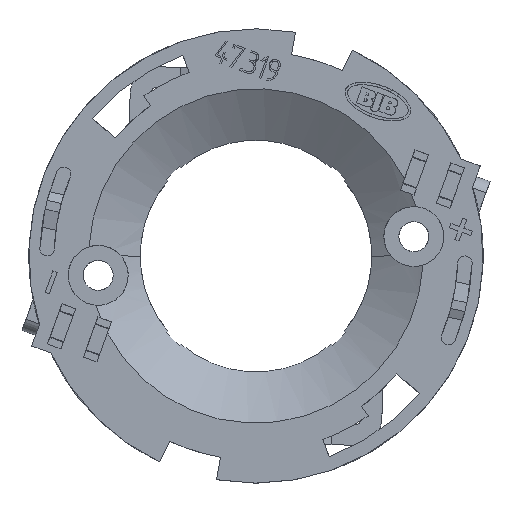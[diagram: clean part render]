
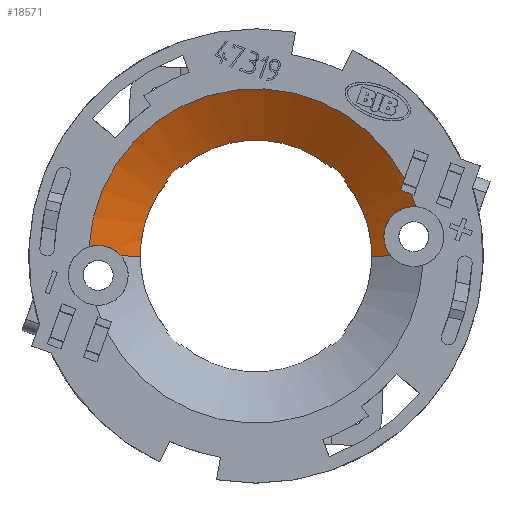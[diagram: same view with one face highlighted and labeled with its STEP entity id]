
A CAD part, top view. The second image highlights one B-rep face of the part: STEP entity #18571.
In plain terms, the highlighted free-form (B-spline) face has degree [7, 1] with [8, 2] control points.
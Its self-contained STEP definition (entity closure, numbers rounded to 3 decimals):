
#7226=CARTESIAN_POINT(' ',(17.583,5.426,5.35));
#7227=VERTEX_POINT(' ',#7226);
#7566=CARTESIAN_POINT(' ',(-18.373,1.011,5.35));
#7567=VERTEX_POINT(' ',#7566);
#7581=CARTESIAN_POINT(' ',(0.,0.,5.35));
#7586=DIRECTION(' ',(0.,0.,1.));
#7591=DIRECTION(' ',(0.888,0.461,0.));
#7596=AXIS2_PLACEMENT_3D(' ',#7581,#7586,#7591);
#7601=CIRCLE('',#7596,18.401);
#7606=CARTESIAN_POINT(' ',(16.333,8.474,5.35));
#7607=VERTEX_POINT(' ',#7606);
#7611=EDGE_CURVE(' ',#7607,#7567,#7601,.T.);
#7746=CARTESIAN_POINT(' ',(17.092,6.815,5.35));
#7747=VERTEX_POINT(' ',#7746);
#7761=CARTESIAN_POINT(' ',(-0.025,-0.01,5.313));
#7766=DIRECTION(' ',(-0.002,-0.001,1.));
#7771=DIRECTION(' ',(0.956,0.295,0.002));
#7776=AXIS2_PLACEMENT_3D(' ',#7761,#7766,#7771);
#7781=CIRCLE('',#7776,18.427);
#7786=EDGE_CURVE(' ',#7227,#7747,#7781,.T.);
#15866=CARTESIAN_POINT(' ',(17.583,5.426,5.35));
#15871=CARTESIAN_POINT(' ',(16.564,5.492,4.742));
#15876=CARTESIAN_POINT(' ',(15.576,5.089,4.061));
#15881=CARTESIAN_POINT(' ',(14.578,3.956,3.249));
#15886=CARTESIAN_POINT(' ',(14.331,3.524,3.025));
#15891=CARTESIAN_POINT(' ',(14.087,2.645,2.755));
#15896=CARTESIAN_POINT(' ',(14.039,2.19,2.675));
#15901=CARTESIAN_POINT(' ',(14.176,1.039,2.672));
#15906=CARTESIAN_POINT(' ',(14.478,0.44,2.851));
#15911=CARTESIAN_POINT(' ',(14.851,0.,3.089));
#15916=B_SPLINE_CURVE_WITH_KNOTS('',3,(#15866,#15871,#15876,#15881,#15886,#15891,#15896,#15901,#15906,#15911),.UNSPECIFIED.,.F.,.U.,(4,2,2,2,4),(0.,0.43,0.629,0.773,1.),.UNSPECIFIED.);
#15921=CARTESIAN_POINT(' ',(14.851,0.,3.089));
#15922=VERTEX_POINT(' ',#15921);
#15926=EDGE_CURVE(' ',#7227,#15922,#15916,.T.);
#16311=CARTESIAN_POINT(' ',(-14.851,0.,3.089));
#16316=DIRECTION(' ',(0.843,0.,-0.537));
#16321=VECTOR(' ',#16316,1.);
#16326=LINE('',#16311,#16321);
#16331=CARTESIAN_POINT(' ',(-14.851,0.,3.089));
#16332=VERTEX_POINT(' ',#16331);
#16336=CARTESIAN_POINT(' ',(-12.75,0.,1.75));
#16337=VERTEX_POINT(' ',#16336);
#16341=EDGE_CURVE(' ',#16332,#16337,#16326,.T.);
#16541=CARTESIAN_POINT(' ',(12.75,0.,1.75));
#16546=DIRECTION(' ',(0.843,0.,0.537));
#16551=VECTOR(' ',#16546,1.);
#16556=LINE('',#16541,#16551);
#16561=CARTESIAN_POINT(' ',(12.75,0.,1.75));
#16562=VERTEX_POINT(' ',#16561);
#16566=EDGE_CURVE(' ',#16562,#15922,#16556,.T.);
#17941=CARTESIAN_POINT(' ',(-14.851,0.,3.089));
#17946=CARTESIAN_POINT(' ',(-15.526,0.797,3.519));
#17951=CARTESIAN_POINT(' ',(-16.493,1.181,4.161));
#17956=CARTESIAN_POINT(' ',(-17.738,1.162,4.952));
#17961=CARTESIAN_POINT(' ',(-18.059,1.111,5.154));
#17966=CARTESIAN_POINT(' ',(-18.373,1.011,5.35));
#17971=B_SPLINE_CURVE_WITH_KNOTS('',3,(#17941,#17946,#17951,#17956,#17961,#17966),.UNSPECIFIED.,.F.,.U.,(4,2,4),(0.,0.743,1.),.UNSPECIFIED.);
#17976=EDGE_CURVE(' ',#16332,#7567,#17971,.T.);
#18046=CARTESIAN_POINT(' ',(18.401,0.,5.35));
#18051=CARTESIAN_POINT(' ',(12.75,0.,1.75));
#18056=CARTESIAN_POINT(' ',(18.401,8.258,5.35));
#18061=CARTESIAN_POINT(' ',(12.75,5.722,1.75));
#18066=CARTESIAN_POINT(' ',(14.075,16.509,5.35));
#18071=CARTESIAN_POINT(' ',(9.753,11.439,1.75));
#18076=CARTESIAN_POINT(' ',(5.436,22.09,5.35));
#18081=CARTESIAN_POINT(' ',(3.767,15.306,1.75));
#18086=CARTESIAN_POINT(' ',(-5.436,22.09,5.35));
#18091=CARTESIAN_POINT(' ',(-3.767,15.306,1.75));
#18096=CARTESIAN_POINT(' ',(-14.075,16.509,5.35));
#18101=CARTESIAN_POINT(' ',(-9.753,11.439,1.75));
#18106=CARTESIAN_POINT(' ',(-18.401,8.258,5.35));
#18111=CARTESIAN_POINT(' ',(-12.75,5.722,1.75));
#18116=CARTESIAN_POINT(' ',(-18.401,0.,5.35));
#18121=CARTESIAN_POINT(' ',(-12.75,0.,1.75));
#18126=B_SPLINE_SURFACE_WITH_KNOTS(' ',7,1,((#18046,#18051),(#18056,#18061),(#18066,#18071),(#18076,#18081),(#18086,#18091),(#18096,#18101),(#18106,#18111),(#18116,#18121)),.UNSPECIFIED.,.F.,.F.,.U.,(8,8),(2,2),(0.,1.),(0.,1.),.UNSPECIFIED.);
#18131=ORIENTED_EDGE(' ',*,*,#16341,.T.);
#18136=CARTESIAN_POINT(' ',(0.,0.,1.75));
#18141=DIRECTION(' ',(0.,0.,1.));
#18146=DIRECTION(' ',(-0.76,0.649,0.));
#18151=AXIS2_PLACEMENT_3D(' ',#18136,#18141,#18146);
#18156=CIRCLE('',#18151,12.75);
#18161=CARTESIAN_POINT(' ',(-9.695,8.281,1.75));
#18162=VERTEX_POINT(' ',#18161);
#18166=EDGE_CURVE(' ',#18162,#16337,#18156,.T.);
#18171=ORIENTED_EDGE(' ',*,*,#18166,.F.);
#18176=CARTESIAN_POINT(' ',(-9.695,8.281,1.75));
#18181=DIRECTION(' ',(-0.641,0.548,0.537));
#18186=VECTOR(' ',#18181,1.);
#18191=LINE('',#18176,#18186);
#18196=CARTESIAN_POINT(' ',(-9.847,8.411,1.877));
#18197=VERTEX_POINT(' ',#18196);
#18201=EDGE_CURVE(' ',#18162,#18197,#18191,.T.);
#18206=ORIENTED_EDGE(' ',*,*,#18201,.T.);
#18211=CARTESIAN_POINT(' ',(0.,0.,1.88));
#18216=DIRECTION(' ',(0.,0.,-1.));
#18221=DIRECTION(' ',(-0.76,0.649,0.));
#18226=AXIS2_PLACEMENT_3D(' ',#18211,#18216,#18221);
#18231=CIRCLE('',#18226,12.949);
#18236=CARTESIAN_POINT(' ',(-8.411,9.847,1.877));
#18237=VERTEX_POINT(' ',#18236);
#18241=EDGE_CURVE(' ',#18197,#18237,#18231,.T.);
#18246=ORIENTED_EDGE(' ',*,*,#18241,.T.);
#18251=CARTESIAN_POINT(' ',(-8.411,9.847,1.877));
#18256=DIRECTION(' ',(0.548,-0.641,-0.537));
#18261=VECTOR(' ',#18256,1.);
#18266=LINE('',#18251,#18261);
#18271=CARTESIAN_POINT(' ',(-8.281,9.695,1.75));
#18272=VERTEX_POINT(' ',#18271);
#18276=EDGE_CURVE(' ',#18237,#18272,#18266,.T.);
#18281=ORIENTED_EDGE(' ',*,*,#18276,.T.);
#18286=CARTESIAN_POINT(' ',(0.,0.,1.75));
#18291=DIRECTION(' ',(0.,0.,1.));
#18296=DIRECTION(' ',(0.649,0.76,0.));
#18301=AXIS2_PLACEMENT_3D(' ',#18286,#18291,#18296);
#18306=CIRCLE('',#18301,12.75);
#18311=CARTESIAN_POINT(' ',(8.281,9.695,1.75));
#18312=VERTEX_POINT(' ',#18311);
#18316=EDGE_CURVE(' ',#18312,#18272,#18306,.T.);
#18321=ORIENTED_EDGE(' ',*,*,#18316,.F.);
#18326=CARTESIAN_POINT(' ',(8.281,9.695,1.75));
#18331=DIRECTION(' ',(0.548,0.641,0.537));
#18336=VECTOR(' ',#18331,1.);
#18341=LINE('',#18326,#18336);
#18346=CARTESIAN_POINT(' ',(8.411,9.847,1.877));
#18347=VERTEX_POINT(' ',#18346);
#18351=EDGE_CURVE(' ',#18312,#18347,#18341,.T.);
#18356=ORIENTED_EDGE(' ',*,*,#18351,.T.);
#18361=CARTESIAN_POINT(' ',(0.,0.,1.88));
#18366=DIRECTION(' ',(0.,0.,-1.));
#18371=DIRECTION(' ',(0.649,0.76,0.));
#18376=AXIS2_PLACEMENT_3D(' ',#18361,#18366,#18371);
#18381=CIRCLE('',#18376,12.95);
#18386=CARTESIAN_POINT(' ',(9.847,8.411,1.877));
#18387=VERTEX_POINT(' ',#18386);
#18391=EDGE_CURVE(' ',#18347,#18387,#18381,.T.);
#18396=ORIENTED_EDGE(' ',*,*,#18391,.T.);
#18401=CARTESIAN_POINT(' ',(9.847,8.411,1.877));
#18406=DIRECTION(' ',(-0.641,-0.548,-0.537));
#18411=VECTOR(' ',#18406,1.);
#18416=LINE('',#18401,#18411);
#18421=CARTESIAN_POINT(' ',(9.695,8.281,1.75));
#18422=VERTEX_POINT(' ',#18421);
#18426=EDGE_CURVE(' ',#18387,#18422,#18416,.T.);
#18431=ORIENTED_EDGE(' ',*,*,#18426,.T.);
#18436=CARTESIAN_POINT(' ',(0.,0.,1.75));
#18441=DIRECTION(' ',(0.,0.,1.));
#18446=DIRECTION(' ',(1.,0.,0.));
#18451=AXIS2_PLACEMENT_3D(' ',#18436,#18441,#18446);
#18456=CIRCLE('',#18451,12.75);
#18461=EDGE_CURVE(' ',#16562,#18422,#18456,.T.);
#18466=ORIENTED_EDGE(' ',*,*,#18461,.F.);
#18471=ORIENTED_EDGE(' ',*,*,#16566,.T.);
#18476=ORIENTED_EDGE(' ',*,*,#15926,.F.);
#18481=ORIENTED_EDGE(' ',*,*,#7786,.T.);
#18486=CARTESIAN_POINT(' ',(15.889,7.253,4.755));
#18491=DIRECTION(' ',(0.852,-0.31,0.422));
#18496=VECTOR(' ',#18491,1.);
#18501=LINE('',#18486,#18496);
#18506=CARTESIAN_POINT(' ',(15.889,7.253,4.755));
#18507=VERTEX_POINT(' ',#18506);
#18511=EDGE_CURVE(' ',#18507,#7747,#18501,.T.);
#18516=ORIENTED_EDGE(' ',*,*,#18511,.F.);
#18521=CARTESIAN_POINT(' ',(16.333,8.474,5.35));
#18526=DIRECTION(' ',(-0.311,-0.854,-0.417));
#18531=VECTOR(' ',#18526,1.);
#18536=LINE('',#18521,#18531);
#18541=EDGE_CURVE(' ',#7607,#18507,#18536,.T.);
#18546=ORIENTED_EDGE(' ',*,*,#18541,.F.);
#18551=ORIENTED_EDGE(' ',*,*,#7611,.T.);
#18556=ORIENTED_EDGE(' ',*,*,#17976,.F.);
#18561=EDGE_LOOP(' ',(#18131,#18171,#18206,#18246,#18281,#18321,#18356,#18396,#18431,#18466,#18471,#18476,#18481,#18516,#18546,#18551,#18556));
#18566=FACE_OUTER_BOUND(' ',#18561,.T.);
#18571=ADVANCED_FACE('',(#18566),#18126,.T.);
